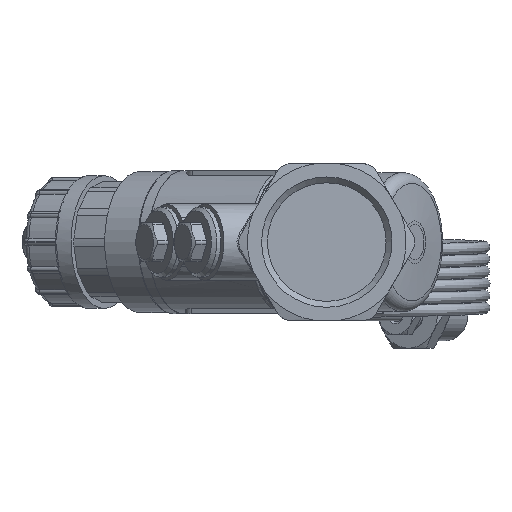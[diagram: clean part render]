
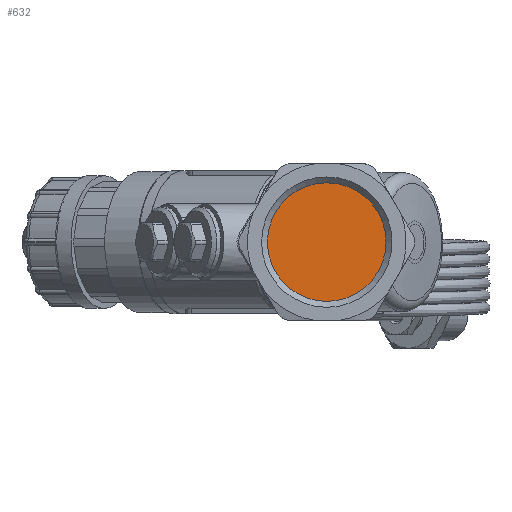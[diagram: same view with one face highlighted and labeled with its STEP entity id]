
A CAD part, left-side view. The second image highlights one B-rep face of the part: STEP entity #632.
In plain terms, the highlighted planar face has unit normal (-1, 0, 0).
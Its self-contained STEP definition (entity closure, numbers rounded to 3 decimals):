
#632=ADVANCED_FACE('',(#13133),#13135,.T.);
#13133=FACE_BOUND('',#13134,.T.);
#13134=EDGE_LOOP('',(#19310));
#13135=PLANE('',#13136);
#13136=AXIS2_PLACEMENT_3D('',#13137,#13138,#13139);
#13137=CARTESIAN_POINT('',(-31.993,0.,0.));
#13138=DIRECTION('',(-1.,0.,0.));
#13139=DIRECTION('',(0.,0.,1.));
#19310=ORIENTED_EDGE('',*,*,#20824,.T.);
#20824=EDGE_CURVE('',#23178,#23178,#23179,.T.);
#23178=VERTEX_POINT('',#35252);
#23179=CIRCLE('',#35253,15.146);
#35252=CARTESIAN_POINT('',(-31.993,0.,15.146));
#35253=AXIS2_PLACEMENT_3D('',#35254,#35255,#35256);
#35254=CARTESIAN_POINT('',(-31.993,0.,0.));
#35255=DIRECTION('',(-1.,0.,0.));
#35256=DIRECTION('',(0.,0.,1.));
